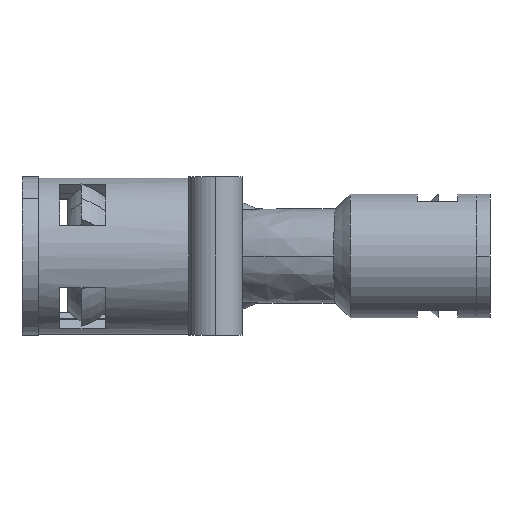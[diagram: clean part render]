
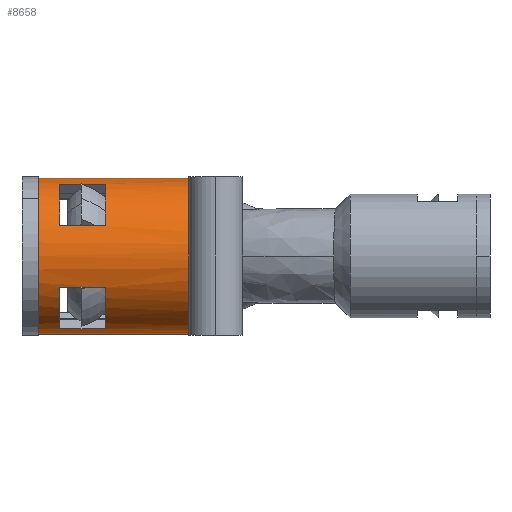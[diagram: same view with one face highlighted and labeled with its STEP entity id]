
A CAD part, left-side view. The second image highlights one B-rep face of the part: STEP entity #8658.
In plain terms, the highlighted cylindrical face has radius 14.5 mm (diameter 29 mm), a partial arc.
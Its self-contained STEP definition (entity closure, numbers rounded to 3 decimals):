
#1142 = VERTEX_POINT ( 'NONE', #9373 ) ;
#1693 = DIRECTION ( 'NONE',  ( 0., -1., 0. ) ) ;
#1694 = CARTESIAN_POINT ( 'NONE',  ( 0., -12.5, 0. ) ) ;
#1696 = AXIS2_PLACEMENT_3D ( 'NONE', #1694, #1693, #1698 ) ;
#1698 = DIRECTION ( 'NONE',  ( 0., 0., 1. ) ) ;
#1715 = CIRCLE ( 'NONE', #1696, 14.5 ) ;
#2195 = CIRCLE ( 'NONE', #2230, 14.5 ) ;
#2220 = DIRECTION ( 'NONE',  ( 0., 0., 1. ) ) ;
#2221 = DIRECTION ( 'NONE',  ( 0., -1., 0. ) ) ;
#2230 = AXIS2_PLACEMENT_3D ( 'NONE', #2236, #2221, #2220 ) ;
#2236 = CARTESIAN_POINT ( 'NONE',  ( 0., 0., 0. ) ) ;
#2275 = LINE ( 'NONE', #2328, #2327 ) ;
#2281 = CARTESIAN_POINT ( 'NONE',  ( -5.266, -4., -13.51 ) ) ;
#2294 = CARTESIAN_POINT ( 'NONE',  ( -13.376, -12.5, 5.598 ) ) ;
#2313 = DIRECTION ( 'NONE',  ( 0., -1., 0. ) ) ;
#2314 = VECTOR ( 'NONE', #2313, 1000. ) ;
#2315 = CARTESIAN_POINT ( 'NONE',  ( -13.267, 0., -5.852 ) ) ;
#2316 = LINE ( 'NONE', #2315, #2314 ) ;
#2320 = CARTESIAN_POINT ( 'NONE',  ( -5.266, -12.5, -13.51 ) ) ;
#2325 = CARTESIAN_POINT ( 'NONE',  ( -13.267, -12.5, -5.852 ) ) ;
#2326 = DIRECTION ( 'NONE',  ( 0., 1., 0. ) ) ;
#2327 = VECTOR ( 'NONE', #2326, 1000. ) ;
#2328 = CARTESIAN_POINT ( 'NONE',  ( -5.266, 0., -13.51 ) ) ;
#2335 = DIRECTION ( 'NONE',  ( 0., 0., 1. ) ) ;
#2336 = AXIS2_PLACEMENT_3D ( 'NONE', #2396, #2341, #2335 ) ;
#2337 = DIRECTION ( 'NONE',  ( 0., 0., 1. ) ) ;
#2338 = DIRECTION ( 'NONE',  ( 0., 1., 0. ) ) ;
#2339 = CARTESIAN_POINT ( 'NONE',  ( 0., -28.5, 0. ) ) ;
#2340 = AXIS2_PLACEMENT_3D ( 'NONE', #2339, #2338, #2337 ) ;
#2341 = DIRECTION ( 'NONE',  ( 0., 1., 0. ) ) ;
#2345 = FACE_BOUND ( 'NONE', #8714, .T. ) ;
#2346 = FACE_OUTER_BOUND ( 'NONE', #8730, .T. ) ;
#2348 = CIRCLE ( 'NONE', #2340, 14.5 ) ;
#2353 = AXIS2_PLACEMENT_3D ( 'NONE', #2390, #2389, #2388 ) ;
#2354 = CYLINDRICAL_SURFACE ( 'NONE', #2336, 14.5 ) ;
#2368 = CARTESIAN_POINT ( 'NONE',  ( -5.598, 0., 13.376 ) ) ;
#2369 = LINE ( 'NONE', #2368, #2430 ) ;
#2372 = DIRECTION ( 'NONE',  ( 0., 1., 0. ) ) ;
#2373 = VECTOR ( 'NONE', #2372, 1000. ) ;
#2381 = CARTESIAN_POINT ( 'NONE',  ( -13.376, 0., 5.598 ) ) ;
#2382 = LINE ( 'NONE', #2381, #2373 ) ;
#2387 = CARTESIAN_POINT ( 'NONE',  ( -5.598, -4., 13.376 ) ) ;
#2388 = DIRECTION ( 'NONE',  ( 0., 0., 1. ) ) ;
#2389 = DIRECTION ( 'NONE',  ( 0., -1., 0. ) ) ;
#2390 = CARTESIAN_POINT ( 'NONE',  ( 0., -12.5, 0. ) ) ;
#2392 = CARTESIAN_POINT ( 'NONE',  ( -13.376, -4., 5.598 ) ) ;
#2394 = CIRCLE ( 'NONE', #2353, 14.5 ) ;
#2395 = FACE_BOUND ( 'NONE', #8723, .T. ) ;
#2396 = CARTESIAN_POINT ( 'NONE',  ( 0., 0., 0. ) ) ;
#2402 = CARTESIAN_POINT ( 'NONE',  ( -5.598, -12.5, 13.376 ) ) ;
#2404 = DIRECTION ( 'NONE',  ( 0., 0., 1. ) ) ;
#2405 = DIRECTION ( 'NONE',  ( 0., 1., 0. ) ) ;
#2411 = CIRCLE ( 'NONE', #2416, 14.5 ) ;
#2416 = AXIS2_PLACEMENT_3D ( 'NONE', #2428, #2405, #2404 ) ;
#2428 = CARTESIAN_POINT ( 'NONE',  ( 0., -4., 0. ) ) ;
#2429 = DIRECTION ( 'NONE',  ( 0., -1., 0. ) ) ;
#2430 = VECTOR ( 'NONE', #2429, 1000. ) ;
#2432 = CIRCLE ( 'NONE', #2490, 14.5 ) ;
#2487 = DIRECTION ( 'NONE',  ( 0., 0., 1. ) ) ;
#2488 = DIRECTION ( 'NONE',  ( 0., 1., 0. ) ) ;
#2489 = CARTESIAN_POINT ( 'NONE',  ( 0., -4., 0. ) ) ;
#2490 = AXIS2_PLACEMENT_3D ( 'NONE', #2489, #2488, #2487 ) ;
#4322 = CARTESIAN_POINT ( 'NONE',  ( 0., -28.5, 14.5 ) ) ;
#5196 = CARTESIAN_POINT ( 'NONE',  ( -14.321, -28.5, -2.274 ) ) ;
#5276 = CARTESIAN_POINT ( 'NONE',  ( -14.321, -28.5, 2.274 ) ) ;
#5409 = CARTESIAN_POINT ( 'NONE',  ( -14.321, -28.5, 2.274 ) ) ;
#5410 = CARTESIAN_POINT ( 'NONE',  ( -14.441, -28.442, 1.516 ) ) ;
#5411 = CARTESIAN_POINT ( 'NONE',  ( -14.559, -28.393, 0. ) ) ;
#5412 = CARTESIAN_POINT ( 'NONE',  ( -14.441, -28.442, -1.516 ) ) ;
#5413 = CARTESIAN_POINT ( 'NONE',  ( -14.321, -28.5, -2.274 ) ) ;
#5416 = B_SPLINE_CURVE_WITH_KNOTS ( 'NONE', 3,
 ( #5413, #5412, #5411, #5410, #5409 ),
 .UNSPECIFIED., .F., .F.,
 ( 4, 1, 4 ),
 ( 0., 0.002, 0.005 ),
 .UNSPECIFIED. ) ;
#5692 = CARTESIAN_POINT ( 'NONE',  ( 0., 0., -14.5 ) ) ;
#5693 = LINE ( 'NONE', #5692, #5719 ) ;
#5694 = CARTESIAN_POINT ( 'NONE',  ( 0., 0., -14.5 ) ) ;
#5695 = CARTESIAN_POINT ( 'NONE',  ( 0., 0., 14.5 ) ) ;
#5707 = CARTESIAN_POINT ( 'NONE',  ( 0., 0., 14.5 ) ) ;
#5708 = LINE ( 'NONE', #5707, #5769 ) ;
#5718 = DIRECTION ( 'NONE',  ( 0., 1., 0. ) ) ;
#5719 = VECTOR ( 'NONE', #5718, 1000. ) ;
#5720 = CARTESIAN_POINT ( 'NONE',  ( 0., -28.5, -14.5 ) ) ;
#5768 = DIRECTION ( 'NONE',  ( 0., 1., 0. ) ) ;
#5769 = VECTOR ( 'NONE', #5768, 1000. ) ;
#5906 = CIRCLE ( 'NONE', #5928, 14.5 ) ;
#5925 = DIRECTION ( 'NONE',  ( 0., 0., 1. ) ) ;
#5926 = DIRECTION ( 'NONE',  ( 0., 1., 0. ) ) ;
#5927 = CARTESIAN_POINT ( 'NONE',  ( 0., -28.5, 0. ) ) ;
#5928 = AXIS2_PLACEMENT_3D ( 'NONE', #5927, #5926, #5925 ) ;
#8571 = EDGE_CURVE ( 'NONE', #13610, #13614, #2195, .T. ) ;
#8579 = EDGE_CURVE ( 'NONE', #8622, #8623, #1715, .T. ) ;
#8590 = VERTEX_POINT ( 'NONE', #2294 ) ;
#8614 = VERTEX_POINT ( 'NONE', #2281 ) ;
#8620 = EDGE_CURVE ( 'NONE', #8623, #8614, #2275, .T. ) ;
#8622 = VERTEX_POINT ( 'NONE', #2325 ) ;
#8623 = VERTEX_POINT ( 'NONE', #2320 ) ;
#8624 = EDGE_CURVE ( 'NONE', #1142, #8622, #2316, .T. ) ;
#8652 = EDGE_CURVE ( 'NONE', #13623, #13542, #2348, .T. ) ;
#8653 = ORIENTED_EDGE ( 'NONE', *, *, #8652, .T. ) ;
#8655 = ORIENTED_EDGE ( 'NONE', *, *, #8579, .T. ) ;
#8656 = ORIENTED_EDGE ( 'NONE', *, *, #13612, .F. ) ;
#8658 = ADVANCED_FACE ( 'NONE', ( #2346, #2345, #2395 ), #2354, .T. ) ;
#8662 = EDGE_CURVE ( 'NONE', #8688, #8590, #2394, .T. ) ;
#8663 = VERTEX_POINT ( 'NONE', #2392 ) ;
#8672 = EDGE_CURVE ( 'NONE', #8590, #8663, #2382, .T. ) ;
#8675 = EDGE_CURVE ( 'NONE', #8686, #8688, #2369, .T. ) ;
#8685 = EDGE_CURVE ( 'NONE', #8614, #1142, #2411, .T. ) ;
#8686 = VERTEX_POINT ( 'NONE', #2387 ) ;
#8688 = VERTEX_POINT ( 'NONE', #2402 ) ;
#8699 = ORIENTED_EDGE ( 'NONE', *, *, #8624, .T. ) ;
#8714 = EDGE_LOOP ( 'NONE', ( #8717, #8716, #8722, #8719 ) ) ;
#8715 = ORIENTED_EDGE ( 'NONE', *, *, #13538, .T. ) ;
#8716 = ORIENTED_EDGE ( 'NONE', *, *, #8731, .T. ) ;
#8717 = ORIENTED_EDGE ( 'NONE', *, *, #8672, .T. ) ;
#8718 = ORIENTED_EDGE ( 'NONE', *, *, #8571, .T. ) ;
#8719 = ORIENTED_EDGE ( 'NONE', *, *, #8662, .T. ) ;
#8720 = ORIENTED_EDGE ( 'NONE', *, *, #8620, .T. ) ;
#8721 = ORIENTED_EDGE ( 'NONE', *, *, #8685, .T. ) ;
#8722 = ORIENTED_EDGE ( 'NONE', *, *, #8675, .T. ) ;
#8723 = EDGE_LOOP ( 'NONE', ( #8720, #8721, #8699, #8655 ) ) ;
#8725 = ORIENTED_EDGE ( 'NONE', *, *, #13621, .T. ) ;
#8726 = ORIENTED_EDGE ( 'NONE', *, *, #13657, .T. ) ;
#8730 = EDGE_LOOP ( 'NONE', ( #8656, #8653, #8715, #8726, #8725, #8718 ) ) ;
#8731 = EDGE_CURVE ( 'NONE', #8663, #8686, #2432, .T. ) ;
#9373 = CARTESIAN_POINT ( 'NONE',  ( -13.267, -4., -5.852 ) ) ;
#13260 = VERTEX_POINT ( 'NONE', #4322 ) ;
#13510 = VERTEX_POINT ( 'NONE', #5276 ) ;
#13538 = EDGE_CURVE ( 'NONE', #13542, #13510, #5416, .T. ) ;
#13542 = VERTEX_POINT ( 'NONE', #5196 ) ;
#13610 = VERTEX_POINT ( 'NONE', #5695 ) ;
#13612 = EDGE_CURVE ( 'NONE', #13623, #13614, #5693, .T. ) ;
#13614 = VERTEX_POINT ( 'NONE', #5694 ) ;
#13621 = EDGE_CURVE ( 'NONE', #13260, #13610, #5708, .T. ) ;
#13623 = VERTEX_POINT ( 'NONE', #5720 ) ;
#13657 = EDGE_CURVE ( 'NONE', #13510, #13260, #5906, .T. ) ;
